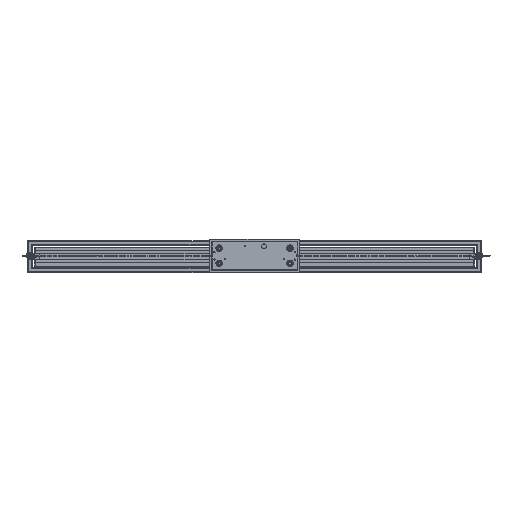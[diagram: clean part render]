
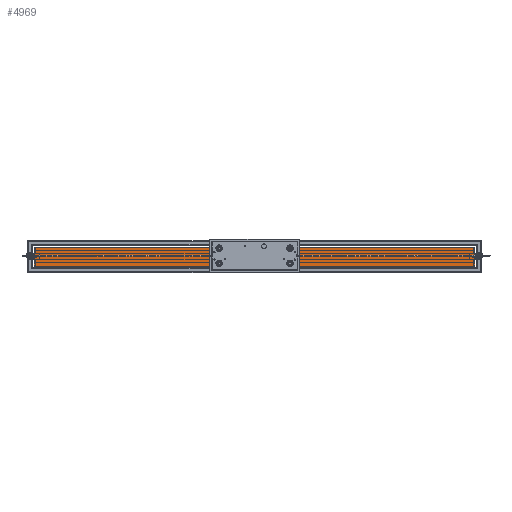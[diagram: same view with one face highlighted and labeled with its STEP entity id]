
A CAD part, top view. The second image highlights one B-rep face of the part: STEP entity #4969.
In plain terms, the highlighted planar face has unit normal (0, 0, 1) as drawn and (0, 0, -1) by its records, which use the part's own axes.
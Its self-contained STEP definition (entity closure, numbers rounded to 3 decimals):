
#364=LINE('',#7197,#728);
#366=LINE('',#7201,#730);
#367=LINE('',#7203,#731);
#368=LINE('',#7205,#732);
#728=VECTOR('',#5943,1000.);
#730=VECTOR('',#5947,1000.);
#731=VECTOR('',#5948,1000.);
#732=VECTOR('',#5949,1000.);
#1013=PLANE('',#5303);
#1424=ORIENTED_EDGE('',*,*,#2331,.T.);
#1425=ORIENTED_EDGE('',*,*,#2332,.F.);
#1426=ORIENTED_EDGE('',*,*,#2333,.F.);
#1427=ORIENTED_EDGE('',*,*,#2329,.T.);
#2329=EDGE_CURVE('',#2809,#2808,#364,.T.);
#2331=EDGE_CURVE('',#2808,#2810,#366,.T.);
#2332=EDGE_CURVE('',#2811,#2810,#367,.T.);
#2333=EDGE_CURVE('',#2809,#2811,#368,.T.);
#2808=VERTEX_POINT('',#7196);
#2809=VERTEX_POINT('',#7198);
#2810=VERTEX_POINT('',#7202);
#2811=VERTEX_POINT('',#7204);
#3314=EDGE_LOOP('',(#1424,#1425,#1426,#1427));
#3694=FACE_BOUND('',#3314,.T.);
#4969=ADVANCED_FACE('',(#3694),#1013,.F.);
#5303=AXIS2_PLACEMENT_3D('',#7200,#5945,#5946);
#5943=DIRECTION('',(0.,1.,0.));
#5945=DIRECTION('',(0.,0.,1.));
#5946=DIRECTION('',(1.,0.,0.));
#5947=DIRECTION('',(1.,0.,0.));
#5948=DIRECTION('',(0.,1.,0.));
#5949=DIRECTION('',(1.,0.,0.));
#7196=CARTESIAN_POINT('',(-20.,466.,0.));
#7197=CARTESIAN_POINT('',(-20.,-466.,0.));
#7198=CARTESIAN_POINT('',(-20.,-466.,0.));
#7200=CARTESIAN_POINT('',(-20.,-466.,0.));
#7201=CARTESIAN_POINT('',(-20.,466.,0.));
#7202=CARTESIAN_POINT('',(20.,466.,0.));
#7203=CARTESIAN_POINT('',(20.,-466.,0.));
#7204=CARTESIAN_POINT('',(20.,-466.,0.));
#7205=CARTESIAN_POINT('',(-20.,-466.,0.));
